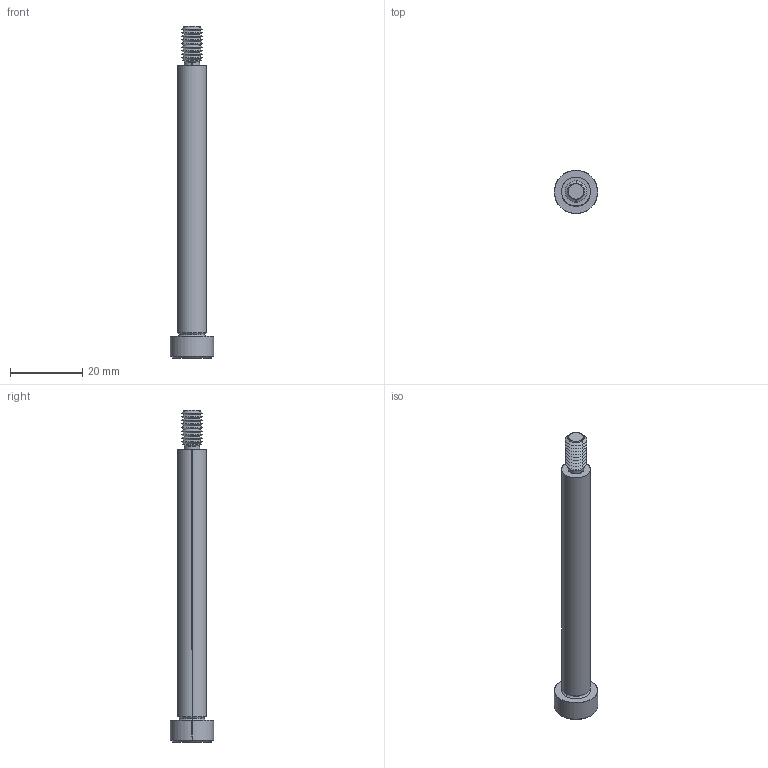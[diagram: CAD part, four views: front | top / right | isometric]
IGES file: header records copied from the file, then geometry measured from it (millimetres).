
Start section: SolidWorks IGES file using analytic representation for surfaces
Global section: file name: C:\Users\IanO\Documents\Temp Folder\GENERAL\SCREW REVISION\P0130_v2\P0130.T5_v2_20220106_IGES\P0130.080-075-T5.igs; native system: SolidWorks 2019; preprocessor: SolidWorks 2019; author: IanO; date: 220106.223845; units: millimetre
Bounding box: 12 x 12 x 92 mm (x, y, z)
Surface area: 2721.2 mm2 (no closed solid volume)
Topology: 0 solids, 0 shells, 80 faces, 580 edges, 578 vertices
Faces by surface type: revolution 60, bspline 20
